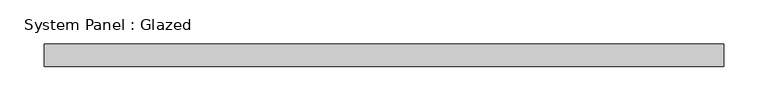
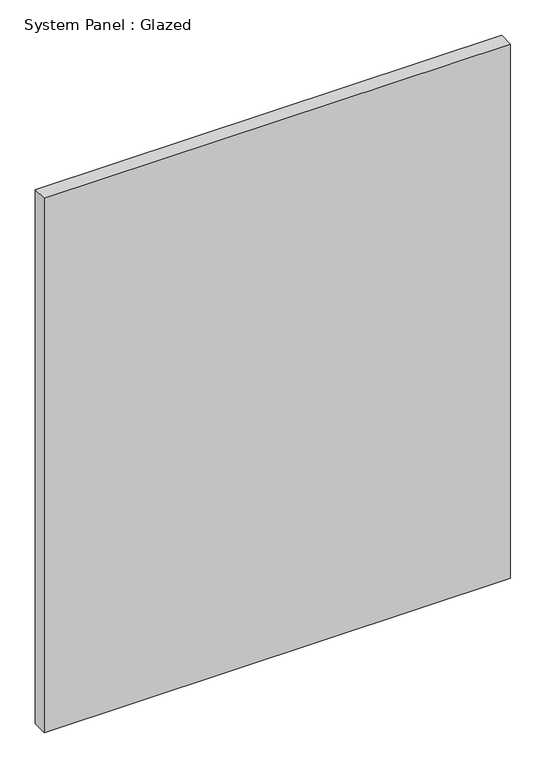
"""IFC4 building model written with IfcOpenShell, lengths in millimetres: plate geometry, System Panel : Glazed."""

from ifc_helpers import new_model, si_unit, origin, origin_with_axes, place, context, project, spatial, polyline, outline, extrude, source, transform, mapped, element, save


def system_panel_glazed_84004d27(model_context):
    return source(origin(), model_context, "Body", "SweptSolid", [
        extrude(outline(polyline([(381.7538216, 24.5), (-381.7538216, 24.5), (-381.7538216, 49.5), (381.7538216, 49.5), (381.7538216, 24.5)])), origin_with_axes(), (0.0, 0.0, 1.0), 925.0),
    ])


if __name__ == "__main__":
    model = new_model("IFC4")
    model_context = context("Model", 3, world=origin())
    ifc_project = project(units=[si_unit("LENGTHUNIT", "METRE", prefix="MILLI")], contexts=[model_context])
    site = spatial("IfcSite", under=ifc_project)
    building = spatial("IfcBuilding", under=site)
    placement = place(None, origin())
    system_panel_glazed_shape = system_panel_glazed_84004d27(model_context)
    element("IfcPlate", 1, ObjectType="System Panel : Glazed", at=placement, inside=building, context=model_context, shape_type="MappedRepresentation", body=[
        mapped(system_panel_glazed_shape, transform((0.0, 0.0, 0.0), x_axis=(1.0, 0.0, 0.0), y_axis=(0.0, 1.0, 0.0), z_axis=(0.0, 0.0, 1.0))),
    ])
    save(model, "model.ifc")
